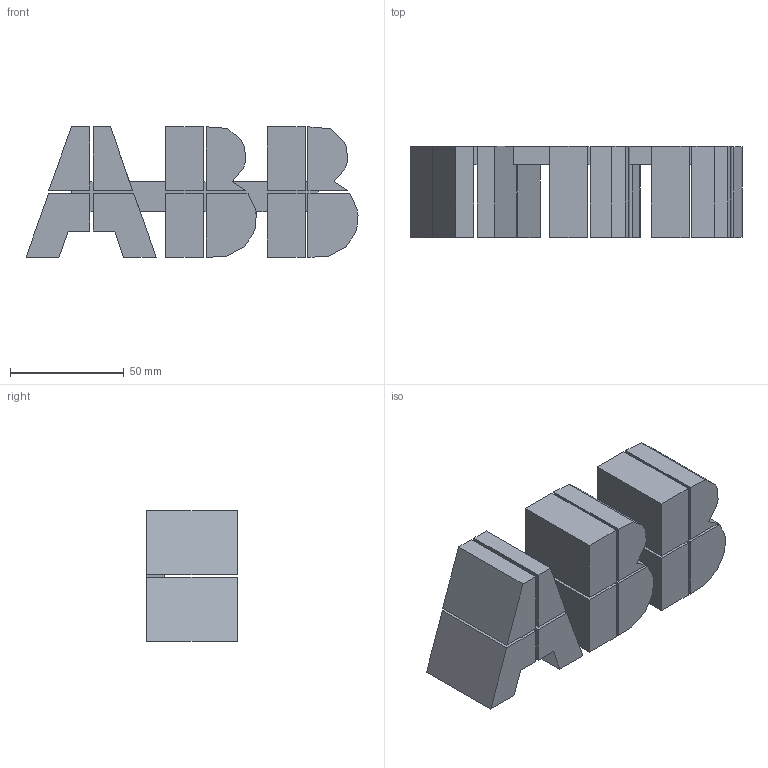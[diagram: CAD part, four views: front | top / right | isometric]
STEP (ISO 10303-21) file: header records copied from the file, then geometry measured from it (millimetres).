
FILE_DESCRIPTION (( 'STEP AP214' ), '1' );
FILE_NAME ('IRB4400_60-195_IRC5_rev02_LOGO01_CAD.STEP', '2016-11-03T06:48:47', ( 'ABB' ), ( 'ABB' ), 'SwSTEP 2.0', 'SolidWorks 2014', '' );
FILE_SCHEMA (( 'AUTOMOTIVE_DESIGN' ));
Length unit declared in the file: millimetre
Products named in the file (1): IRB4400_60-195_IRC5_rev02_LOGO01_CAD
Bounding box: 146.13 x 40 x 57.45 mm (x, y, z)
Volume: 224238.7 mm3; surface area: 53564 mm2
Topology: 1 solids, 1 shells, 104 faces, 299 edges, 197 vertices
Faces by surface type: plane 104
Entity records: 3361 total; most frequent: CARTESIAN_POINT 601, ORIENTED_EDGE 598, DIRECTION 509, EDGE_CURVE 299, VECTOR 299, LINE 299, VERTEX_POINT 197, AXIS2_PLACEMENT_3D 105
